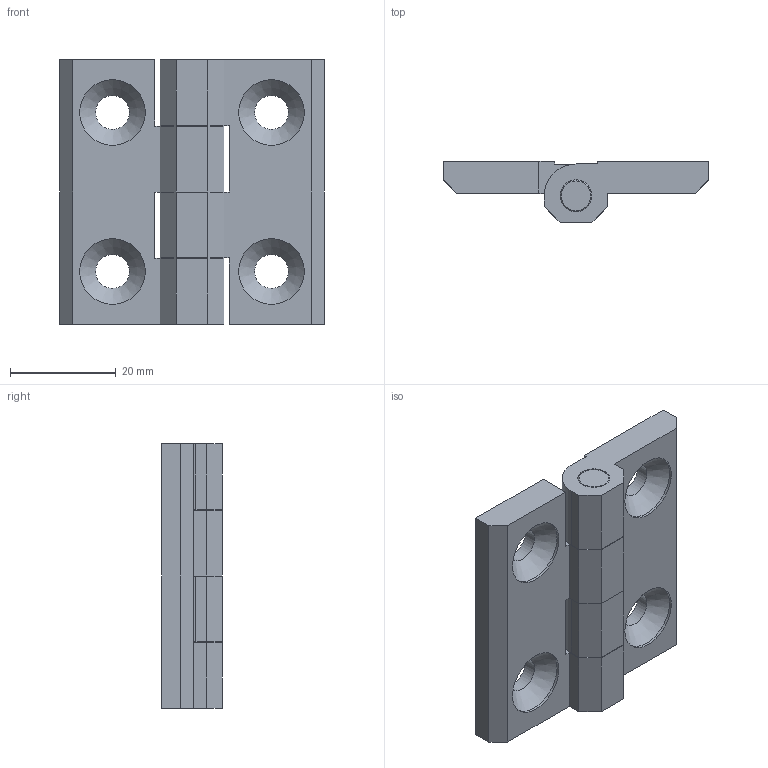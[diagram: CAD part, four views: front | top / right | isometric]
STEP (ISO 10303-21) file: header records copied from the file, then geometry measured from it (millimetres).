
FILE_DESCRIPTION( ( 'STEP AP203' ), '1' );
FILE_NAME( 'C:/Temp/Ganter_Step_05_03_2020/data/3_3/gn_237/gn_237_al/Aluminum-Hinge GN 237-AL-50-50-A-EL (0).stp', '2020-03-12T11:57:05', ( 'License CC BY-ND 4.0' ), ( 'CADENAS' ), ' ', 'PARTsolutions', ' ' );
FILE_SCHEMA( ( 'CONFIG_CONTROL_DESIGN' ) );
Length unit declared in the file: millimetre
Products named in the file (3): Aluminum-Hinge GN 237-AL-50-50-A-EL (0); _Aluminum-Hinge GN 237-AL-50-50-A-EL (0)_1; _Aluminum-Hinge GN 237-AL-50-50-A-EL (0)_2
Assembly tree (2 placements, depth 2):
  Aluminum-Hinge GN 237-AL-50-50-A-EL (0)
    _Aluminum-Hinge GN 237-AL-50-50-A-EL (0)_1
    _Aluminum-Hinge GN 237-AL-50-50-A-EL (0)_2
Bounding box: 50 x 11.5 x 50 mm (x, y, z)
Volume: 15157.4 mm3; surface area: 8534.8 mm2
Topology: 2 solids, 2 shells, 75 faces, 200 edges, 131 vertices
Faces by surface type: plane 52, cylinder 17, cone 6
Full cylindrical faces by diameter (mm): 6 x5, 6.4 x4, 12.4 x4
Entity records: 2328 total; most frequent: CARTESIAN_POINT 384, DIRECTION 370, ORIENTED_EDGE 356, EDGE_CURVE 178, LINE 142, VECTOR 142, VERTEX_POINT 128, AXIS2_PLACEMENT_3D 114
